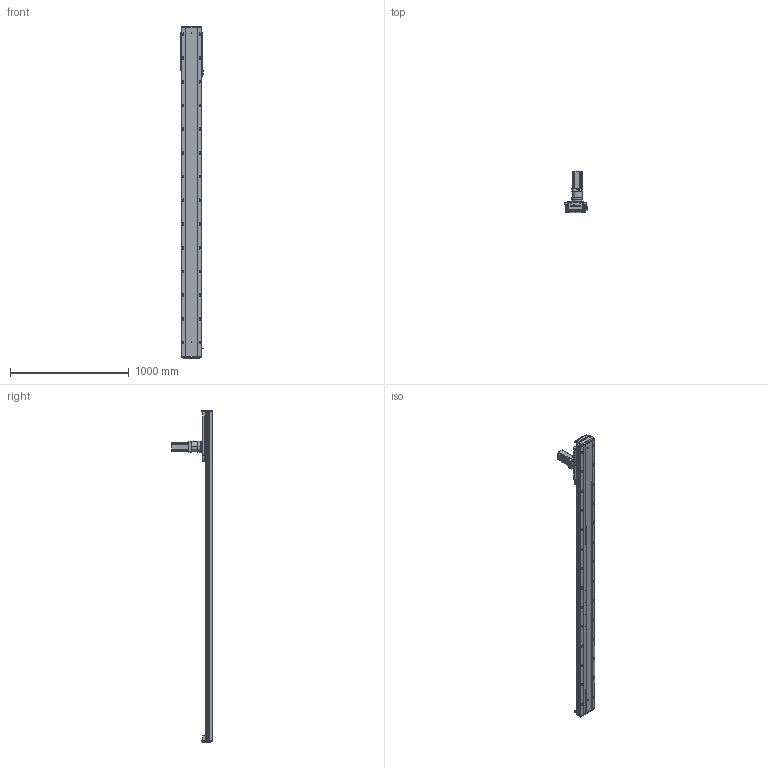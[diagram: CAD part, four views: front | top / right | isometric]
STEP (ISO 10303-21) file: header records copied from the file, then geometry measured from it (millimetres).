
FILE_DESCRIPTION (( 'STEP AP203' ), '1' );
FILE_NAME ('RY170-C-1000-UK.SLDASM_2300.step', '2021-03-03T00:47:27', ( '盈信电脑' ), ( '东莞市道滘镇水果街19号' ), 'SwSTEP 2.0', 'SolidWorks 2012', '' );
FILE_SCHEMA (( 'CONFIG_CONTROL_DESIGN' ));
Length unit declared in the file: millimetre
Products named in the file (13): RY170-喘沭賑輸; RY170-C-1000-UK.SLDASM_2300; TF080等撰; 左旋斜齿齿轮_M2_22齿_内孔20; RY170-喘沭滅袉蝶輸; 怢湛750W萇儂ㄗ80遺ㄘ; 覜茼ん672; RY170外置感应片(200共用）; RY170綴裔啣ㄗ蜊秶ㄘ; RY170-喘謫萇儂覃誹啣; RY170-1000齿条模组型材底座_2300; 絳寢賑輸EGH20CA; RY170-1000-喘沭耀郪絳寢EGH20CA_2300
Assembly tree (22 placements, depth 2):
  RY170-C-1000-UK.SLDASM_2300
    RY170-1000齿条模组型材底座_2300
    絳寢賑輸EGH20CA  x6
    RY170-1000-喘沭耀郪絳寢EGH20CA_2300  x2
    RY170綴裔啣ㄗ蜊秶ㄘ  x2
    覜茼ん672  x3
    RY170外置感应片(200共用）
    RY170-喘謫萇儂覃誹啣
    怢湛750W萇儂ㄗ80遺ㄘ
    RY170-喘沭滅袉蝶輸  x2
    TF080等撰
    左旋斜齿齿轮_M2_22齿_内孔20
    RY170-喘沭賑輸
Bounding box: 188.7 x 343.5 x 2800 mm (x, y, z)
Volume: 14725198.4 mm3; surface area: 3724669.2 mm2
Topology: 24 solids, 24 shells, 4523 faces, 12712 edges, 8129 vertices
Faces by surface type: plane 2165, cylinder 1950, cone 354, bspline 50, torus 4
Entity records: 102294 total; most frequent: CARTESIAN_POINT 24175, ORIENTED_EDGE 16326, DIRECTION 15806, EDGE_CURVE 8163, AXIS2_PLACEMENT_3D 5849, VERTEX_POINT 5309, VECTOR 4108, LINE 4108
